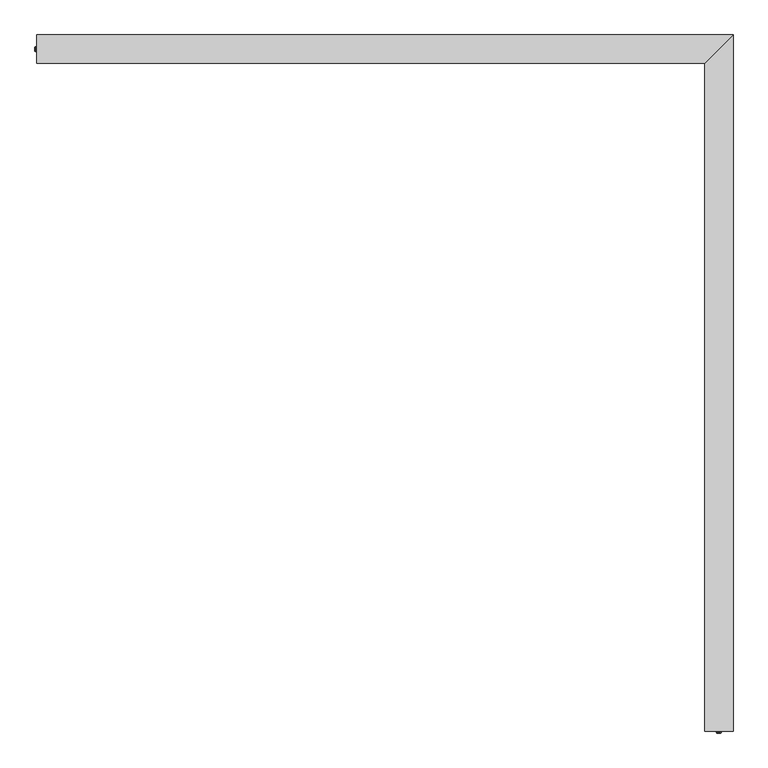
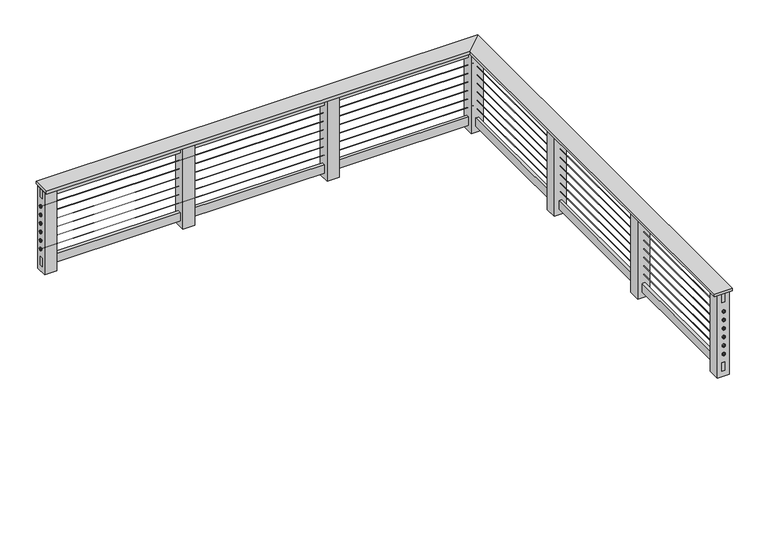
"""IFC4 building model written with IfcOpenShell, lengths in millimetres: railing geometry, HandiSwage Cable Railing System Flat."""

from ifc_helpers import new_model, si_unit, point, frame, origin, origin_with_axes, place, context, project, spatial, polyline, circle_curve, ellipse_curve, trimmed, outline, extrude, faceted_brep, source, transform, mapped, element, save
from ifc_brep_helpers import plane_surface, cylinder_surface, revolved_surface, advanced_brep


def railing_3a9d6573(model_context):
    return source(origin(), model_context, "Body", "SolidModel", [
        faceted_brep([(-13704.6998867, 618.9400917, 762.0), (-13704.6998867, 771.3400917, 762.0), (-13704.6998867, 771.3400917, 736.6), (-13704.6998867, 618.9400917, 736.6), (-10123.2998867, 618.9400917, 762.0), (-9970.8998867, 771.3400917, 762.0), (-9970.8998867, 771.3400917, 736.6), (-10123.2998867, 618.9400917, 736.6), (-10123.2998867, -2962.4599083, 762.0), (-10123.2998867, -2962.4599083, 736.6), (-9970.8998867, -2962.4599083, 736.6), (-9970.8998867, -2962.4599083, 762.0)], [[[0, 1, 2, 3]], [[1, 0, 4, 5]], [[2, 1, 5, 6]], [[3, 2, 6, 7]], [[0, 3, 7, 4]], [[8, 9, 10, 11]], [[5, 4, 8, 11]], [[6, 5, 11, 10]], [[7, 6, 10, 9]], [[4, 7, 9, 8]]]),
        faceted_brep([(-13704.6998867, 682.4400917, 736.6), (-13704.6998867, 707.8400917, 736.6), (-13704.6998867, 707.8400917, 660.4), (-13704.6998867, 682.4400917, 660.4), (-10059.7998867, 682.4400917, 736.6), (-10034.3998867, 707.8400917, 736.6), (-10034.3998867, 707.8400917, 660.4), (-10059.7998867, 682.4400917, 660.4), (-10059.7998867, -2962.4599083, 736.6), (-10059.7998867, -2962.4599083, 660.4), (-10034.3998867, -2962.4599083, 660.4), (-10034.3998867, -2962.4599083, 736.6)], [[[0, 1, 2, 3]], [[1, 0, 4, 5]], [[2, 1, 5, 6]], [[3, 2, 6, 7]], [[0, 3, 7, 4]], [[8, 9, 10, 11]], [[5, 4, 8, 11]], [[6, 5, 11, 10]], [[7, 6, 10, 9]], [[4, 7, 9, 8]]]),
        advanced_brep(
        [(-13704.6998867, 696.6780114, 584.2), (-13704.6998867, 693.6021719, 584.2), (-10045.561967, 696.6780114, 584.2), (-10048.6378065, 693.6021719, 584.2), (-10045.561967, -2962.4599083, 584.2), (-10048.6378065, -2962.4599083, 584.2)],
        [
            (0, 1, circle_curve(frame((-13704.6998867, 695.1400917, 584.2), z_axis=(-1.0, 0.0, 0.0), x_axis=(0.0, -1.0, 0.0)), 1.5379197)),
            (1, 0, circle_curve(frame((-13704.6998867, 695.1400917, 584.2), z_axis=(-1.0, 0.0, 0.0), x_axis=(0.0, -1.0, 0.0)), 1.5379197)),
            (0, 2),
            (2, 3, ellipse_curve(frame((-10047.0998867, 695.1400917, 584.2), z_axis=(-0.7071067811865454, 0.7071067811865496, 0.0), x_axis=(-0.7071067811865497, -0.7071067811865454, 0.0)), 2.174947, 1.5379197)),
            (3, 1),
            (3, 2, ellipse_curve(frame((-10047.0998867, 695.1400917, 584.2), z_axis=(-0.7071067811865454, 0.7071067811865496, 0.0), x_axis=(-0.7071067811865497, -0.7071067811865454, 0.0)), 2.174947, 1.5379197)),
            (4, 5, circle_curve(frame((-10047.0998867, -2962.4599083, 584.2), z_axis=(0.0, -1.0, 0.0), x_axis=(-1.0, 0.0, 0.0)), 1.5379197)),
            (5, 4, circle_curve(frame((-10047.0998867, -2962.4599083, 584.2), z_axis=(0.0, -1.0, 0.0), x_axis=(-1.0, 0.0, 0.0)), 1.5379197)),
            (2, 4),
            (5, 3),
        ],
        [
            plane_surface(frame((-13704.6998867, 695.1400917, 584.2), z_axis=(-1.0, 0.0, 0.0), x_axis=(0.0, 1.0, 0.0))),
            cylinder_surface(frame((-13704.6998867, 695.1400917, 584.2), z_axis=(-1.0, 0.0, 0.0), x_axis=(0.0, -1.0, 0.0)), 1.5379197),
            plane_surface(frame((-10047.0998867, -2962.4599083, 584.2), z_axis=(0.0, -1.0, 0.0), x_axis=(0.0, 0.0, -1.0))),
            cylinder_surface(frame((-10047.0998867, 695.1400917, 584.2), z_axis=(0.0, 1.0, 0.0), x_axis=(-1.0, 0.0, 0.0)), 1.5379197),
        ],
        [
            (0, [[1, 2]]),
            (1, [[-1, 3, 4, 5]]),
            (1, [[-2, -5, 6, -3]]),
            (2, [[7, 8]]),
            (3, [[-4, 9, -8, 10]]),
            (3, [[-6, -10, -7, -9]]),
        ],
    ),
        advanced_brep(
        [(-13704.6998867, 696.6780114, 508.0), (-13704.6998867, 693.6021719, 508.0), (-10045.561967, 696.6780114, 508.0), (-10048.6378065, 693.6021719, 508.0), (-10045.561967, -2962.4599083, 508.0), (-10048.6378065, -2962.4599083, 508.0)],
        [
            (0, 1, circle_curve(frame((-13704.6998867, 695.1400917, 508.0), z_axis=(-1.0, 0.0, 0.0), x_axis=(0.0, -1.0, 0.0)), 1.5379197)),
            (1, 0, circle_curve(frame((-13704.6998867, 695.1400917, 508.0), z_axis=(-1.0, 0.0, 0.0), x_axis=(0.0, -1.0, 0.0)), 1.5379197)),
            (0, 2),
            (2, 3, ellipse_curve(frame((-10047.0998867, 695.1400917, 508.0), z_axis=(-0.7071067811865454, 0.7071067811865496, 0.0), x_axis=(-0.7071067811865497, -0.7071067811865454, 0.0)), 2.174947, 1.5379197)),
            (3, 1),
            (3, 2, ellipse_curve(frame((-10047.0998867, 695.1400917, 508.0), z_axis=(-0.7071067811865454, 0.7071067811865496, 0.0), x_axis=(-0.7071067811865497, -0.7071067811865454, 0.0)), 2.174947, 1.5379197)),
            (4, 5, circle_curve(frame((-10047.0998867, -2962.4599083, 508.0), z_axis=(0.0, -1.0, 0.0), x_axis=(-1.0, 0.0, 0.0)), 1.5379197)),
            (5, 4, circle_curve(frame((-10047.0998867, -2962.4599083, 508.0), z_axis=(0.0, -1.0, 0.0), x_axis=(-1.0, 0.0, 0.0)), 1.5379197)),
            (2, 4),
            (5, 3),
        ],
        [
            plane_surface(frame((-13704.6998867, 695.1400917, 508.0), z_axis=(-1.0, 0.0, 0.0), x_axis=(0.0, 1.0, 0.0))),
            cylinder_surface(frame((-13704.6998867, 695.1400917, 508.0), z_axis=(-1.0, 0.0, 0.0), x_axis=(0.0, -1.0, 0.0)), 1.5379197),
            plane_surface(frame((-10047.0998867, -2962.4599083, 508.0), z_axis=(0.0, -1.0, 0.0), x_axis=(0.0, 0.0, -1.0))),
            cylinder_surface(frame((-10047.0998867, 695.1400917, 508.0), z_axis=(0.0, 1.0, 0.0), x_axis=(-1.0, 0.0, 0.0)), 1.5379197),
        ],
        [
            (0, [[1, 2]]),
            (1, [[-1, 3, 4, 5]]),
            (1, [[-2, -5, 6, -3]]),
            (2, [[7, 8]]),
            (3, [[-4, 9, -8, 10]]),
            (3, [[-6, -10, -7, -9]]),
        ],
    ),
        advanced_brep(
        [(-13704.6998867, 696.6780114, 431.8), (-13704.6998867, 693.6021719, 431.8), (-10045.561967, 696.6780114, 431.8), (-10048.6378065, 693.6021719, 431.8), (-10045.561967, -2962.4599083, 431.8), (-10048.6378065, -2962.4599083, 431.8)],
        [
            (0, 1, circle_curve(frame((-13704.6998867, 695.1400917, 431.8), z_axis=(-1.0, 0.0, 0.0), x_axis=(0.0, -1.0, 0.0)), 1.5379197)),
            (1, 0, circle_curve(frame((-13704.6998867, 695.1400917, 431.8), z_axis=(-1.0, 0.0, 0.0), x_axis=(0.0, -1.0, 0.0)), 1.5379197)),
            (0, 2),
            (2, 3, ellipse_curve(frame((-10047.0998867, 695.1400917, 431.8), z_axis=(-0.7071067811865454, 0.7071067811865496, 0.0), x_axis=(-0.7071067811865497, -0.7071067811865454, 0.0)), 2.174947, 1.5379197)),
            (3, 1),
            (3, 2, ellipse_curve(frame((-10047.0998867, 695.1400917, 431.8), z_axis=(-0.7071067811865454, 0.7071067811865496, 0.0), x_axis=(-0.7071067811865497, -0.7071067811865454, 0.0)), 2.174947, 1.5379197)),
            (4, 5, circle_curve(frame((-10047.0998867, -2962.4599083, 431.8), z_axis=(0.0, -1.0, 0.0), x_axis=(-1.0, 0.0, 0.0)), 1.5379197)),
            (5, 4, circle_curve(frame((-10047.0998867, -2962.4599083, 431.8), z_axis=(0.0, -1.0, 0.0), x_axis=(-1.0, 0.0, 0.0)), 1.5379197)),
            (2, 4),
            (5, 3),
        ],
        [
            plane_surface(frame((-13704.6998867, 695.1400917, 431.8), z_axis=(-1.0, 0.0, 0.0), x_axis=(0.0, 1.0, 0.0))),
            cylinder_surface(frame((-13704.6998867, 695.1400917, 431.8), z_axis=(-1.0, 0.0, 0.0), x_axis=(0.0, -1.0, 0.0)), 1.5379197),
            plane_surface(frame((-10047.0998867, -2962.4599083, 431.8), z_axis=(0.0, -1.0, 0.0), x_axis=(0.0, 0.0, -1.0))),
            cylinder_surface(frame((-10047.0998867, 695.1400917, 431.8), z_axis=(0.0, 1.0, 0.0), x_axis=(-1.0, 0.0, 0.0)), 1.5379197),
        ],
        [
            (0, [[1, 2]]),
            (1, [[-1, 3, 4, 5]]),
            (1, [[-2, -5, 6, -3]]),
            (2, [[7, 8]]),
            (3, [[-4, 9, -8, 10]]),
            (3, [[-6, -10, -7, -9]]),
        ],
    ),
        advanced_brep(
        [(-13704.6998867, 696.6780114, 355.6), (-13704.6998867, 693.6021719, 355.6), (-10045.561967, 696.6780114, 355.6), (-10048.6378065, 693.6021719, 355.6), (-10045.561967, -2962.4599083, 355.6), (-10048.6378065, -2962.4599083, 355.6)],
        [
            (0, 1, circle_curve(frame((-13704.6998867, 695.1400917, 355.6), z_axis=(-1.0, 0.0, 0.0), x_axis=(0.0, -1.0, 0.0)), 1.5379197)),
            (1, 0, circle_curve(frame((-13704.6998867, 695.1400917, 355.6), z_axis=(-1.0, 0.0, 0.0), x_axis=(0.0, -1.0, 0.0)), 1.5379197)),
            (0, 2),
            (2, 3, ellipse_curve(frame((-10047.0998867, 695.1400917, 355.6), z_axis=(-0.7071067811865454, 0.7071067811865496, 0.0), x_axis=(-0.7071067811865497, -0.7071067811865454, 0.0)), 2.174947, 1.5379197)),
            (3, 1),
            (3, 2, ellipse_curve(frame((-10047.0998867, 695.1400917, 355.6), z_axis=(-0.7071067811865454, 0.7071067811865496, 0.0), x_axis=(-0.7071067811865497, -0.7071067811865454, 0.0)), 2.174947, 1.5379197)),
            (4, 5, circle_curve(frame((-10047.0998867, -2962.4599083, 355.6), z_axis=(0.0, -1.0, 0.0), x_axis=(-1.0, 0.0, 0.0)), 1.5379197)),
            (5, 4, circle_curve(frame((-10047.0998867, -2962.4599083, 355.6), z_axis=(0.0, -1.0, 0.0), x_axis=(-1.0, 0.0, 0.0)), 1.5379197)),
            (2, 4),
            (5, 3),
        ],
        [
            plane_surface(frame((-13704.6998867, 695.1400917, 355.6), z_axis=(-1.0, 0.0, 0.0), x_axis=(0.0, 1.0, 0.0))),
            cylinder_surface(frame((-13704.6998867, 695.1400917, 355.6), z_axis=(-1.0, 0.0, 0.0), x_axis=(0.0, -1.0, 0.0)), 1.5379197),
            plane_surface(frame((-10047.0998867, -2962.4599083, 355.6), z_axis=(0.0, -1.0, 0.0), x_axis=(0.0, 0.0, -1.0))),
            cylinder_surface(frame((-10047.0998867, 695.1400917, 355.6), z_axis=(0.0, 1.0, 0.0), x_axis=(-1.0, 0.0, 0.0)), 1.5379197),
        ],
        [
            (0, [[1, 2]]),
            (1, [[-1, 3, 4, 5]]),
            (1, [[-2, -5, 6, -3]]),
            (2, [[7, 8]]),
            (3, [[-4, 9, -8, 10]]),
            (3, [[-6, -10, -7, -9]]),
        ],
    ),
        advanced_brep(
        [(-13704.6998867, 696.6780114, 279.4), (-13704.6998867, 693.6021719, 279.4), (-10045.561967, 696.6780114, 279.4), (-10048.6378065, 693.6021719, 279.4), (-10045.561967, -2962.4599083, 279.4), (-10048.6378065, -2962.4599083, 279.4)],
        [
            (0, 1, circle_curve(frame((-13704.6998867, 695.1400917, 279.4), z_axis=(-1.0, 0.0, 0.0), x_axis=(0.0, -1.0, 0.0)), 1.5379197)),
            (1, 0, circle_curve(frame((-13704.6998867, 695.1400917, 279.4), z_axis=(-1.0, 0.0, 0.0), x_axis=(0.0, -1.0, 0.0)), 1.5379197)),
            (0, 2),
            (2, 3, ellipse_curve(frame((-10047.0998867, 695.1400917, 279.4), z_axis=(-0.7071067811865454, 0.7071067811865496, 0.0), x_axis=(-0.7071067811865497, -0.7071067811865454, 0.0)), 2.174947, 1.5379197)),
            (3, 1),
            (3, 2, ellipse_curve(frame((-10047.0998867, 695.1400917, 279.4), z_axis=(-0.7071067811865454, 0.7071067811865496, 0.0), x_axis=(-0.7071067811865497, -0.7071067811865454, 0.0)), 2.174947, 1.5379197)),
            (4, 5, circle_curve(frame((-10047.0998867, -2962.4599083, 279.4), z_axis=(0.0, -1.0, 0.0), x_axis=(-1.0, 0.0, 0.0)), 1.5379197)),
            (5, 4, circle_curve(frame((-10047.0998867, -2962.4599083, 279.4), z_axis=(0.0, -1.0, 0.0), x_axis=(-1.0, 0.0, 0.0)), 1.5379197)),
            (2, 4),
            (5, 3),
        ],
        [
            plane_surface(frame((-13704.6998867, 695.1400917, 279.4), z_axis=(-1.0, 0.0, 0.0), x_axis=(0.0, 1.0, 0.0))),
            cylinder_surface(frame((-13704.6998867, 695.1400917, 279.4), z_axis=(-1.0, 0.0, 0.0), x_axis=(0.0, -1.0, 0.0)), 1.5379197),
            plane_surface(frame((-10047.0998867, -2962.4599083, 279.4), z_axis=(0.0, -1.0, 0.0), x_axis=(0.0, 0.0, -1.0))),
            cylinder_surface(frame((-10047.0998867, 695.1400917, 279.4), z_axis=(0.0, 1.0, 0.0), x_axis=(-1.0, 0.0, 0.0)), 1.5379197),
        ],
        [
            (0, [[1, 2]]),
            (1, [[-1, 3, 4, 5]]),
            (1, [[-2, -5, 6, -3]]),
            (2, [[7, 8]]),
            (3, [[-4, 9, -8, 10]]),
            (3, [[-6, -10, -7, -9]]),
        ],
    ),
        advanced_brep(
        [(-13704.6998867, 696.6780114, 203.2), (-13704.6998867, 693.6021719, 203.2), (-10045.561967, 696.6780114, 203.2), (-10048.6378065, 693.6021719, 203.2), (-10045.561967, -2962.4599083, 203.2), (-10048.6378065, -2962.4599083, 203.2)],
        [
            (0, 1, circle_curve(frame((-13704.6998867, 695.1400917, 203.2), z_axis=(-1.0, 0.0, 0.0), x_axis=(0.0, -1.0, 0.0)), 1.5379197)),
            (1, 0, circle_curve(frame((-13704.6998867, 695.1400917, 203.2), z_axis=(-1.0, 0.0, 0.0), x_axis=(0.0, -1.0, 0.0)), 1.5379197)),
            (0, 2),
            (2, 3, ellipse_curve(frame((-10047.0998867, 695.1400917, 203.2), z_axis=(-0.7071067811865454, 0.7071067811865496, 0.0), x_axis=(-0.7071067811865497, -0.7071067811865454, 0.0)), 2.174947, 1.5379197)),
            (3, 1),
            (3, 2, ellipse_curve(frame((-10047.0998867, 695.1400917, 203.2), z_axis=(-0.7071067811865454, 0.7071067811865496, 0.0), x_axis=(-0.7071067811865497, -0.7071067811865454, 0.0)), 2.174947, 1.5379197)),
            (4, 5, circle_curve(frame((-10047.0998867, -2962.4599083, 203.2), z_axis=(0.0, -1.0, 0.0), x_axis=(-1.0, 0.0, 0.0)), 1.5379197)),
            (5, 4, circle_curve(frame((-10047.0998867, -2962.4599083, 203.2), z_axis=(0.0, -1.0, 0.0), x_axis=(-1.0, 0.0, 0.0)), 1.5379197)),
            (2, 4),
            (5, 3),
        ],
        [
            plane_surface(frame((-13704.6998867, 695.1400917, 203.2), z_axis=(-1.0, 0.0, 0.0), x_axis=(0.0, 1.0, 0.0))),
            cylinder_surface(frame((-13704.6998867, 695.1400917, 203.2), z_axis=(-1.0, 0.0, 0.0), x_axis=(0.0, -1.0, 0.0)), 1.5379197),
            plane_surface(frame((-10047.0998867, -2962.4599083, 203.2), z_axis=(0.0, -1.0, 0.0), x_axis=(0.0, 0.0, -1.0))),
            cylinder_surface(frame((-10047.0998867, 695.1400917, 203.2), z_axis=(0.0, 1.0, 0.0), x_axis=(-1.0, 0.0, 0.0)), 1.5379197),
        ],
        [
            (0, [[1, 2]]),
            (1, [[-1, 3, 4, 5]]),
            (1, [[-2, -5, 6, -3]]),
            (2, [[7, 8]]),
            (3, [[-4, 9, -8, 10]]),
            (3, [[-6, -10, -7, -9]]),
        ],
    ),
        faceted_brep([(-13704.6998867, 682.4400917, 127.0), (-13704.6998867, 707.8400917, 127.0), (-13704.6998867, 707.8400917, 50.8), (-13704.6998867, 682.4400917, 50.8), (-10059.7998867, 682.4400917, 127.0), (-10034.3998867, 707.8400917, 127.0), (-10034.3998867, 707.8400917, 50.8), (-10059.7998867, 682.4400917, 50.8), (-10059.7998867, -2962.4599083, 127.0), (-10059.7998867, -2962.4599083, 50.8), (-10034.3998867, -2962.4599083, 50.8), (-10034.3998867, -2962.4599083, 127.0)], [[[0, 1, 2, 3]], [[1, 0, 4, 5]], [[2, 1, 5, 6]], [[3, 2, 6, 7]], [[0, 3, 7, 4]], [[8, 9, 10, 11]], [[5, 4, 8, 11]], [[6, 5, 11, 10]], [[7, 6, 10, 9]], [[4, 7, 9, 8]]]),
        extrude(outline(polyline([(-10097.8998867, -1692.4599083), (-9996.2998867, -1692.4599083), (-9996.2998867, -1794.0599083), (-10097.8998867, -1794.0599083), (-10097.8998867, -1692.4599083)])), origin_with_axes(), (0.0, 0.0, 1.0), 736.6),
        extrude(outline(polyline([(-10097.8998867, -473.2599083), (-9996.2998867, -473.2599083), (-9996.2998867, -574.8599083), (-10097.8998867, -574.8599083), (-10097.8998867, -473.2599083)])), origin_with_axes(), (0.0, 0.0, 1.0), 736.6),
        extrude(outline(polyline([(-10097.8998867, 745.9400917), (-9996.2998867, 745.9400917), (-9996.2998867, 644.3400917), (-10097.8998867, 644.3400917), (-10097.8998867, 745.9400917)])), origin_with_axes(), (0.0, 0.0, 1.0), 736.6),
        extrude(outline(polyline([(-10097.8998867, 644.3400917), (-10097.8998867, 745.9400917), (-9996.2998867, 745.9400917), (-9996.2998867, 644.3400917), (-10097.8998867, 644.3400917)])), origin_with_axes(), (0.0, 0.0, 1.0), 736.6),
        extrude(outline(polyline([(-11317.0998867, 644.3400917), (-11317.0998867, 745.9400917), (-11215.4998867, 745.9400917), (-11215.4998867, 644.3400917), (-11317.0998867, 644.3400917)])), origin_with_axes(), (0.0, 0.0, 1.0), 736.6),
        extrude(outline(polyline([(-12536.2998867, 644.3400917), (-12536.2998867, 745.9400917), (-12434.6998867, 745.9400917), (-12434.6998867, 644.3400917), (-12536.2998867, 644.3400917)])), origin_with_axes(), (0.0, 0.0, 1.0), 736.6),
        advanced_brep(
        [(-10047.0998867, -2962.4599083, 279.0980455), (-10047.0998867, -2962.4599083, 266.3980455), (-10047.0998867, -2962.4599083, 291.7980455), (-10047.0998867, -2971.9849083, 269.5730455), (-10047.0998867, -2971.9849083, 279.0980455), (-10047.0998867, -2971.9849083, 288.6230455), (-10047.0998867, -2968.8099083, 266.3980455), (-10047.0998867, -2968.8099083, 291.7980455)],
        [
            (0, 1),
            (1, 2, circle_curve(frame((-10047.0998867, -2962.4599083, 279.0980455), z_axis=(0.0, 1.0, 0.0), x_axis=(0.0, 0.0, 1.0)), 12.7)),
            (2, 0),
            (2, 1, circle_curve(frame((-10047.0998867, -2962.4599083, 279.0980455), z_axis=(0.0, 1.0, 0.0), x_axis=(0.0, 0.0, 1.0)), 12.7)),
            (3, 4),
            (4, 5),
            (5, 3, circle_curve(frame((-10047.0998867, -2971.9849083, 279.0980455), z_axis=(0.0, -1.0, 0.0), x_axis=(0.0, 0.0, 1.0)), 9.525)),
            (3, 5, circle_curve(frame((-10047.0998867, -2971.9849083, 279.0980455), z_axis=(0.0, -1.0, 0.0), x_axis=(0.0, 0.0, 1.0)), 9.525)),
            (1, 6),
            (6, 7, circle_curve(frame((-10047.0998867, -2968.8099083, 279.0980455), z_axis=(0.0, 1.0, 0.0), x_axis=(0.0, 0.0, 1.0)), 12.7)),
            (7, 2),
            (7, 6, circle_curve(frame((-10047.0998867, -2968.8099083, 279.0980455), z_axis=(0.0, 1.0, 0.0), x_axis=(0.0, 0.0, 1.0)), 12.7)),
            (6, 3, circle_curve(frame((-10047.0998867, -2968.8099083, 269.5730455), z_axis=(-1.0, 0.0, 0.0), x_axis=(0.0, -1.0, 0.0)), 3.175)),
            (5, 7, circle_curve(frame((-10047.0998867, -2968.8099083, 288.6230455), z_axis=(-1.0, 0.0, 0.0), x_axis=(0.0, -1.0, 0.0)), 3.175)),
        ],
        [
            plane_surface(frame((-10047.0998867, -2962.4599083, 279.0980455), z_axis=(0.0, 1.0, 0.0), x_axis=(0.0, 0.0, 1.0))),
            plane_surface(frame((-10047.0998867, -2971.9849083, 279.0980455), z_axis=(0.0, -1.0, 0.0), x_axis=(0.0, 0.0, 1.0))),
            cylinder_surface(frame((-10047.0998867, -2962.4599083, 279.0980455), z_axis=(0.0, 1.0, 0.0), x_axis=(0.0, 0.0, 1.0)), 12.7),
            revolved_surface(trimmed(ellipse_curve(frame((-10047.0998867, -2968.8099083, 288.6230455), z_axis=(-1.0, 0.0, 0.0), x_axis=(0.0, -1.0, 0.0)), 3.175, 3.175), [point((-10047.0998867, -2971.9849083, 288.6230455))], [point((-10047.0998867, -2968.8099083, 291.7980455))], True, "CARTESIAN"), (-10047.0998867, -2962.4599083, 279.0980455), (0.0, 1.0, 0.0)),
        ],
        [
            (0, [[1, 2, 3]]),
            (0, [[-3, 4, -1]]),
            (1, [[5, 6, 7]]),
            (1, [[-6, -5, 8]]),
            (2, [[9, 10, 11, -2]]),
            (2, [[-11, 12, -9, -4]]),
            (3, [[13, -7, 14, -10]]),
            (3, [[-14, -8, -13, -12]]),
        ],
    ),
        advanced_brep(
        [(-10047.0998867, -2962.4599083, 355.2980455), (-10047.0998867, -2962.4599083, 342.5980455), (-10047.0998867, -2962.4599083, 367.9980455), (-10047.0998867, -2971.9849083, 345.7730455), (-10047.0998867, -2971.9849083, 355.2980455), (-10047.0998867, -2971.9849083, 364.8230455), (-10047.0998867, -2968.8099083, 342.5980455), (-10047.0998867, -2968.8099083, 367.9980455)],
        [
            (0, 1),
            (1, 2, circle_curve(frame((-10047.0998867, -2962.4599083, 355.2980455), z_axis=(0.0, 1.0, 0.0), x_axis=(0.0, 0.0, 1.0)), 12.7)),
            (2, 0),
            (2, 1, circle_curve(frame((-10047.0998867, -2962.4599083, 355.2980455), z_axis=(0.0, 1.0, 0.0), x_axis=(0.0, 0.0, 1.0)), 12.7)),
            (3, 4),
            (4, 5),
            (5, 3, circle_curve(frame((-10047.0998867, -2971.9849083, 355.2980455), z_axis=(0.0, -1.0, 0.0), x_axis=(0.0, 0.0, 1.0)), 9.525)),
            (3, 5, circle_curve(frame((-10047.0998867, -2971.9849083, 355.2980455), z_axis=(0.0, -1.0, 0.0), x_axis=(0.0, 0.0, 1.0)), 9.525)),
            (1, 6),
            (6, 7, circle_curve(frame((-10047.0998867, -2968.8099083, 355.2980455), z_axis=(0.0, 1.0, 0.0), x_axis=(0.0, 0.0, 1.0)), 12.7)),
            (7, 2),
            (7, 6, circle_curve(frame((-10047.0998867, -2968.8099083, 355.2980455), z_axis=(0.0, 1.0, 0.0), x_axis=(0.0, 0.0, 1.0)), 12.7)),
            (6, 3, circle_curve(frame((-10047.0998867, -2968.8099083, 345.7730455), z_axis=(-1.0, 0.0, 0.0), x_axis=(0.0, -1.0, 0.0)), 3.175)),
            (5, 7, circle_curve(frame((-10047.0998867, -2968.8099083, 364.8230455), z_axis=(-1.0, 0.0, 0.0), x_axis=(0.0, -1.0, 0.0)), 3.175)),
        ],
        [
            plane_surface(frame((-10047.0998867, -2962.4599083, 355.2980455), z_axis=(0.0, 1.0, 0.0), x_axis=(0.0, 0.0, 1.0))),
            plane_surface(frame((-10047.0998867, -2971.9849083, 355.2980455), z_axis=(0.0, -1.0, 0.0), x_axis=(0.0, 0.0, 1.0))),
            cylinder_surface(frame((-10047.0998867, -2962.4599083, 355.2980455), z_axis=(0.0, 1.0, 0.0), x_axis=(0.0, 0.0, 1.0)), 12.7),
            revolved_surface(trimmed(ellipse_curve(frame((-10047.0998867, -2968.8099083, 364.8230455), z_axis=(-1.0, 0.0, 0.0), x_axis=(0.0, -1.0, 0.0)), 3.175, 3.175), [point((-10047.0998867, -2971.9849083, 364.8230455))], [point((-10047.0998867, -2968.8099083, 367.9980455))], True, "CARTESIAN"), (-10047.0998867, -2962.4599083, 355.2980455), (0.0, 1.0, 0.0)),
        ],
        [
            (0, [[1, 2, 3]]),
            (0, [[-3, 4, -1]]),
            (1, [[5, 6, 7]]),
            (1, [[-6, -5, 8]]),
            (2, [[9, 10, 11, -2]]),
            (2, [[-11, 12, -9, -4]]),
            (3, [[13, -7, 14, -10]]),
            (3, [[-14, -8, -13, -12]]),
        ],
    ),
        advanced_brep(
        [(-10047.0998867, -2962.4599083, 431.4980455), (-10047.0998867, -2962.4599083, 418.7980455), (-10047.0998867, -2962.4599083, 444.1980455), (-10047.0998867, -2971.9849083, 421.9730455), (-10047.0998867, -2971.9849083, 431.4980455), (-10047.0998867, -2971.9849083, 441.0230455), (-10047.0998867, -2968.8099083, 418.7980455), (-10047.0998867, -2968.8099083, 444.1980455)],
        [
            (0, 1),
            (1, 2, circle_curve(frame((-10047.0998867, -2962.4599083, 431.4980455), z_axis=(0.0, 1.0, 0.0), x_axis=(0.0, 0.0, 1.0)), 12.7)),
            (2, 0),
            (2, 1, circle_curve(frame((-10047.0998867, -2962.4599083, 431.4980455), z_axis=(0.0, 1.0, 0.0), x_axis=(0.0, 0.0, 1.0)), 12.7)),
            (3, 4),
            (4, 5),
            (5, 3, circle_curve(frame((-10047.0998867, -2971.9849083, 431.4980455), z_axis=(0.0, -1.0, 0.0), x_axis=(0.0, 0.0, 1.0)), 9.525)),
            (3, 5, circle_curve(frame((-10047.0998867, -2971.9849083, 431.4980455), z_axis=(0.0, -1.0, 0.0), x_axis=(0.0, 0.0, 1.0)), 9.525)),
            (1, 6),
            (6, 7, circle_curve(frame((-10047.0998867, -2968.8099083, 431.4980455), z_axis=(0.0, 1.0, 0.0), x_axis=(0.0, 0.0, 1.0)), 12.7)),
            (7, 2),
            (7, 6, circle_curve(frame((-10047.0998867, -2968.8099083, 431.4980455), z_axis=(0.0, 1.0, 0.0), x_axis=(0.0, 0.0, 1.0)), 12.7)),
            (6, 3, circle_curve(frame((-10047.0998867, -2968.8099083, 421.9730455), z_axis=(-1.0, 0.0, 0.0), x_axis=(0.0, -1.0, 0.0)), 3.175)),
            (5, 7, circle_curve(frame((-10047.0998867, -2968.8099083, 441.0230455), z_axis=(-1.0, 0.0, 0.0), x_axis=(0.0, -1.0, 0.0)), 3.175)),
        ],
        [
            plane_surface(frame((-10047.0998867, -2962.4599083, 431.4980455), z_axis=(0.0, 1.0, 0.0), x_axis=(0.0, 0.0, 1.0))),
            plane_surface(frame((-10047.0998867, -2971.9849083, 431.4980455), z_axis=(0.0, -1.0, 0.0), x_axis=(0.0, 0.0, 1.0))),
            cylinder_surface(frame((-10047.0998867, -2962.4599083, 431.4980455), z_axis=(0.0, 1.0, 0.0), x_axis=(0.0, 0.0, 1.0)), 12.7),
            revolved_surface(trimmed(ellipse_curve(frame((-10047.0998867, -2968.8099083, 441.0230455), z_axis=(-1.0, 0.0, 0.0), x_axis=(0.0, -1.0, 0.0)), 3.175, 3.175), [point((-10047.0998867, -2971.9849083, 441.0230455))], [point((-10047.0998867, -2968.8099083, 444.1980455))], True, "CARTESIAN"), (-10047.0998867, -2962.4599083, 431.4980455), (0.0, 1.0, 0.0)),
        ],
        [
            (0, [[1, 2, 3]]),
            (0, [[-3, 4, -1]]),
            (1, [[5, 6, 7]]),
            (1, [[-6, -5, 8]]),
            (2, [[9, 10, 11, -2]]),
            (2, [[-11, 12, -9, -4]]),
            (3, [[13, -7, 14, -10]]),
            (3, [[-14, -8, -13, -12]]),
        ],
    ),
        advanced_brep(
        [(-10047.0998867, -2962.4599083, 507.6980455), (-10047.0998867, -2962.4599083, 494.9980455), (-10047.0998867, -2962.4599083, 520.3980455), (-10047.0998867, -2971.9849083, 498.1730455), (-10047.0998867, -2971.9849083, 507.6980455), (-10047.0998867, -2971.9849083, 517.2230455), (-10047.0998867, -2968.8099083, 494.9980455), (-10047.0998867, -2968.8099083, 520.3980455)],
        [
            (0, 1),
            (1, 2, circle_curve(frame((-10047.0998867, -2962.4599083, 507.6980455), z_axis=(0.0, 1.0, 0.0), x_axis=(0.0, 0.0, 1.0)), 12.7)),
            (2, 0),
            (2, 1, circle_curve(frame((-10047.0998867, -2962.4599083, 507.6980455), z_axis=(0.0, 1.0, 0.0), x_axis=(0.0, 0.0, 1.0)), 12.7)),
            (3, 4),
            (4, 5),
            (5, 3, circle_curve(frame((-10047.0998867, -2971.9849083, 507.6980455), z_axis=(0.0, -1.0, 0.0), x_axis=(0.0, 0.0, 1.0)), 9.525)),
            (3, 5, circle_curve(frame((-10047.0998867, -2971.9849083, 507.6980455), z_axis=(0.0, -1.0, 0.0), x_axis=(0.0, 0.0, 1.0)), 9.525)),
            (1, 6),
            (6, 7, circle_curve(frame((-10047.0998867, -2968.8099083, 507.6980455), z_axis=(0.0, 1.0, 0.0), x_axis=(0.0, 0.0, 1.0)), 12.7)),
            (7, 2),
            (7, 6, circle_curve(frame((-10047.0998867, -2968.8099083, 507.6980455), z_axis=(0.0, 1.0, 0.0), x_axis=(0.0, 0.0, 1.0)), 12.7)),
            (6, 3, circle_curve(frame((-10047.0998867, -2968.8099083, 498.1730455), z_axis=(-1.0, 0.0, 0.0), x_axis=(0.0, -1.0, 0.0)), 3.175)),
            (5, 7, circle_curve(frame((-10047.0998867, -2968.8099083, 517.2230455), z_axis=(-1.0, 0.0, 0.0), x_axis=(0.0, -1.0, 0.0)), 3.175)),
        ],
        [
            plane_surface(frame((-10047.0998867, -2962.4599083, 507.6980455), z_axis=(0.0, 1.0, 0.0), x_axis=(0.0, 0.0, 1.0))),
            plane_surface(frame((-10047.0998867, -2971.9849083, 507.6980455), z_axis=(0.0, -1.0, 0.0), x_axis=(0.0, 0.0, 1.0))),
            cylinder_surface(frame((-10047.0998867, -2962.4599083, 507.6980455), z_axis=(0.0, 1.0, 0.0), x_axis=(0.0, 0.0, 1.0)), 12.7),
            revolved_surface(trimmed(ellipse_curve(frame((-10047.0998867, -2968.8099083, 517.2230455), z_axis=(-1.0, 0.0, 0.0), x_axis=(0.0, -1.0, 0.0)), 3.175, 3.175), [point((-10047.0998867, -2971.9849083, 517.2230455))], [point((-10047.0998867, -2968.8099083, 520.3980455))], True, "CARTESIAN"), (-10047.0998867, -2962.4599083, 507.6980455), (0.0, 1.0, 0.0)),
        ],
        [
            (0, [[1, 2, 3]]),
            (0, [[-3, 4, -1]]),
            (1, [[5, 6, 7]]),
            (1, [[-6, -5, 8]]),
            (2, [[9, 10, 11, -2]]),
            (2, [[-11, 12, -9, -4]]),
            (3, [[13, -7, 14, -10]]),
            (3, [[-14, -8, -13, -12]]),
        ],
    ),
        advanced_brep(
        [(-10047.0998867, -2962.4599083, 583.8980455), (-10047.0998867, -2962.4599083, 571.1980455), (-10047.0998867, -2962.4599083, 596.5980455), (-10047.0998867, -2971.9849083, 574.3730455), (-10047.0998867, -2971.9849083, 583.8980455), (-10047.0998867, -2971.9849083, 593.4230455), (-10047.0998867, -2968.8099083, 571.1980455), (-10047.0998867, -2968.8099083, 596.5980455)],
        [
            (0, 1),
            (1, 2, circle_curve(frame((-10047.0998867, -2962.4599083, 583.8980455), z_axis=(0.0, 1.0, 0.0), x_axis=(0.0, 0.0, 1.0)), 12.7)),
            (2, 0),
            (2, 1, circle_curve(frame((-10047.0998867, -2962.4599083, 583.8980455), z_axis=(0.0, 1.0, 0.0), x_axis=(0.0, 0.0, 1.0)), 12.7)),
            (3, 4),
            (4, 5),
            (5, 3, circle_curve(frame((-10047.0998867, -2971.9849083, 583.8980455), z_axis=(0.0, -1.0, 0.0), x_axis=(0.0, 0.0, 1.0)), 9.525)),
            (3, 5, circle_curve(frame((-10047.0998867, -2971.9849083, 583.8980455), z_axis=(0.0, -1.0, 0.0), x_axis=(0.0, 0.0, 1.0)), 9.525)),
            (1, 6),
            (6, 7, circle_curve(frame((-10047.0998867, -2968.8099083, 583.8980455), z_axis=(0.0, 1.0, 0.0), x_axis=(0.0, 0.0, 1.0)), 12.7)),
            (7, 2),
            (7, 6, circle_curve(frame((-10047.0998867, -2968.8099083, 583.8980455), z_axis=(0.0, 1.0, 0.0), x_axis=(0.0, 0.0, 1.0)), 12.7)),
            (6, 3, circle_curve(frame((-10047.0998867, -2968.8099083, 574.3730455), z_axis=(-1.0, 0.0, 0.0), x_axis=(0.0, -1.0, 0.0)), 3.175)),
            (5, 7, circle_curve(frame((-10047.0998867, -2968.8099083, 593.4230455), z_axis=(-1.0, 0.0, 0.0), x_axis=(0.0, -1.0, 0.0)), 3.175)),
        ],
        [
            plane_surface(frame((-10047.0998867, -2962.4599083, 583.8980455), z_axis=(0.0, 1.0, 0.0), x_axis=(0.0, 0.0, 1.0))),
            plane_surface(frame((-10047.0998867, -2971.9849083, 583.8980455), z_axis=(0.0, -1.0, 0.0), x_axis=(0.0, 0.0, 1.0))),
            cylinder_surface(frame((-10047.0998867, -2962.4599083, 583.8980455), z_axis=(0.0, 1.0, 0.0), x_axis=(0.0, 0.0, 1.0)), 12.7),
            revolved_surface(trimmed(ellipse_curve(frame((-10047.0998867, -2968.8099083, 593.4230455), z_axis=(-1.0, 0.0, 0.0), x_axis=(0.0, -1.0, 0.0)), 3.175, 3.175), [point((-10047.0998867, -2971.9849083, 593.4230455))], [point((-10047.0998867, -2968.8099083, 596.5980455))], True, "CARTESIAN"), (-10047.0998867, -2962.4599083, 583.8980455), (0.0, 1.0, 0.0)),
        ],
        [
            (0, [[1, 2, 3]]),
            (0, [[-3, 4, -1]]),
            (1, [[5, 6, 7]]),
            (1, [[-6, -5, 8]]),
            (2, [[9, 10, 11, -2]]),
            (2, [[-11, 12, -9, -4]]),
            (3, [[13, -7, 14, -10]]),
            (3, [[-14, -8, -13, -12]]),
        ],
    ),
        advanced_brep(
        [(-10047.0998867, -2962.4599083, 202.8980455), (-10047.0998867, -2962.4599083, 190.1980455), (-10047.0998867, -2962.4599083, 215.5980455), (-10047.0998867, -2971.9849083, 193.3730455), (-10047.0998867, -2971.9849083, 202.8980455), (-10047.0998867, -2971.9849083, 212.4230455), (-10047.0998867, -2968.8099083, 190.1980455), (-10047.0998867, -2968.8099083, 215.5980455)],
        [
            (0, 1),
            (1, 2, circle_curve(frame((-10047.0998867, -2962.4599083, 202.8980455), z_axis=(0.0, 1.0, 0.0), x_axis=(0.0, 0.0, 1.0)), 12.7)),
            (2, 0),
            (2, 1, circle_curve(frame((-10047.0998867, -2962.4599083, 202.8980455), z_axis=(0.0, 1.0, 0.0), x_axis=(0.0, 0.0, 1.0)), 12.7)),
            (3, 4),
            (4, 5),
            (5, 3, circle_curve(frame((-10047.0998867, -2971.9849083, 202.8980455), z_axis=(0.0, -1.0, 0.0), x_axis=(0.0, 0.0, 1.0)), 9.525)),
            (3, 5, circle_curve(frame((-10047.0998867, -2971.9849083, 202.8980455), z_axis=(0.0, -1.0, 0.0), x_axis=(0.0, 0.0, 1.0)), 9.525)),
            (1, 6),
            (6, 7, circle_curve(frame((-10047.0998867, -2968.8099083, 202.8980455), z_axis=(0.0, 1.0, 0.0), x_axis=(0.0, 0.0, 1.0)), 12.7)),
            (7, 2),
            (7, 6, circle_curve(frame((-10047.0998867, -2968.8099083, 202.8980455), z_axis=(0.0, 1.0, 0.0), x_axis=(0.0, 0.0, 1.0)), 12.7)),
            (6, 3, circle_curve(frame((-10047.0998867, -2968.8099083, 193.3730455), z_axis=(-1.0, 0.0, 0.0), x_axis=(0.0, -1.0, 0.0)), 3.175)),
            (5, 7, circle_curve(frame((-10047.0998867, -2968.8099083, 212.4230455), z_axis=(-1.0, 0.0, 0.0), x_axis=(0.0, -1.0, 0.0)), 3.175)),
        ],
        [
            plane_surface(frame((-10047.0998867, -2962.4599083, 202.8980455), z_axis=(0.0, 1.0, 0.0), x_axis=(0.0, 0.0, 1.0))),
            plane_surface(frame((-10047.0998867, -2971.9849083, 202.8980455), z_axis=(0.0, -1.0, 0.0), x_axis=(0.0, 0.0, 1.0))),
            cylinder_surface(frame((-10047.0998867, -2962.4599083, 202.8980455), z_axis=(0.0, 1.0, 0.0), x_axis=(0.0, 0.0, 1.0)), 12.7),
            revolved_surface(trimmed(ellipse_curve(frame((-10047.0998867, -2968.8099083, 212.4230455), z_axis=(-1.0, 0.0, 0.0), x_axis=(0.0, -1.0, 0.0)), 3.175, 3.175), [point((-10047.0998867, -2971.9849083, 212.4230455))], [point((-10047.0998867, -2968.8099083, 215.5980455))], True, "CARTESIAN"), (-10047.0998867, -2962.4599083, 202.8980455), (0.0, 1.0, 0.0)),
        ],
        [
            (0, [[1, 2, 3]]),
            (0, [[-3, 4, -1]]),
            (1, [[5, 6, 7]]),
            (1, [[-6, -5, 8]]),
            (2, [[9, 10, 11, -2]]),
            (2, [[-11, 12, -9, -4]]),
            (3, [[13, -7, 14, -10]]),
            (3, [[-14, -8, -13, -12]]),
        ],
    ),
        extrude(outline(polyline([(-10097.8998867, -2860.8599083), (-9996.2998867, -2860.8599083), (-9996.2998867, -2962.4599083), (-10097.8998867, -2962.4599083), (-10097.8998867, -2860.8599083)])), origin_with_axes(), (0.0, 0.0, 1.0), 736.6),
        advanced_brep(
        [(-13704.6998867, 695.1400917, 279.3957018), (-13704.6998867, 695.1400917, 292.0957018), (-13704.6998867, 695.1400917, 266.6957018), (-13714.2248867, 695.1400917, 269.9204941), (-13714.2248867, 695.1400917, 288.8709095), (-13714.2248867, 695.1400917, 279.3957018), (-13711.0498867, 695.1400917, 292.0957018), (-13711.0498867, 695.1400917, 266.6957018)],
        [
            (0, 1),
            (1, 2, circle_curve(frame((-13704.6998867, 695.1400917, 279.3957018), z_axis=(1.0, 0.0, 0.0), x_axis=(0.0, 0.0, 1.0)), 12.7)),
            (2, 0),
            (2, 1, circle_curve(frame((-13704.6998867, 695.1400917, 279.3957018), z_axis=(1.0, 0.0, 0.0), x_axis=(0.0, 0.0, 1.0)), 12.7)),
            (3, 4, circle_curve(frame((-13714.2248867, 695.1400917, 279.3957018), z_axis=(-1.0, 0.0, 0.0), x_axis=(0.0, 0.0, 1.0)), 9.4752077)),
            (4, 5),
            (5, 3),
            (4, 3, circle_curve(frame((-13714.2248867, 695.1400917, 279.3957018), z_axis=(-1.0, 0.0, 0.0), x_axis=(0.0, 0.0, 1.0)), 9.4752077)),
            (1, 6),
            (6, 7, circle_curve(frame((-13711.0498867, 695.1400917, 279.3957018), z_axis=(1.0, 0.0, 0.0), x_axis=(0.0, 0.0, 1.0)), 12.7)),
            (7, 2),
            (7, 6, circle_curve(frame((-13711.0498867, 695.1400917, 279.3957018), z_axis=(1.0, 0.0, 0.0), x_axis=(0.0, 0.0, 1.0)), 12.7)),
            (6, 4, circle_curve(frame((-13711.0498867, 695.1400917, 288.8709095), z_axis=(0.0, -1.0, 0.0), x_axis=(-1.0, 0.0, 0.0)), 3.175)),
            (3, 7, circle_curve(frame((-13711.0498867, 695.1400917, 269.9204941), z_axis=(0.0, -1.0, 0.0), x_axis=(-1.0, 0.0, 0.0)), 3.175)),
        ],
        [
            plane_surface(frame((-13704.6998867, 695.1400917, 279.3957018), z_axis=(1.0, 0.0, 0.0), x_axis=(0.0, 0.0, 1.0))),
            plane_surface(frame((-13714.2248867, 695.1400917, 279.3957018), z_axis=(-1.0, 0.0, 0.0), x_axis=(0.0, 0.0, 1.0))),
            cylinder_surface(frame((-13704.6998867, 695.1400917, 279.3957018), z_axis=(1.0, 0.0, 0.0), x_axis=(0.0, 0.0, 1.0)), 12.7),
            revolved_surface(trimmed(ellipse_curve(frame((-13711.0498867, 695.1400917, 288.8709095), z_axis=(0.0, 1.0, 0.0), x_axis=(-1.0, 0.0, 0.0)), 3.175, 3.175), [point((-13714.2248867, 695.1400917, 288.8709095))], [point((-13711.0498867, 695.1400917, 292.0459095))], True, "CARTESIAN"), (-13704.6998867, 695.1400917, 279.3957018), (1.0, 0.0, 0.0)),
        ],
        [
            (0, [[1, 2, 3]]),
            (0, [[-3, 4, -1]]),
            (1, [[5, 6, 7]]),
            (1, [[8, -7, -6]]),
            (2, [[-2, 9, 10, 11]]),
            (2, [[-4, -11, 12, -9]]),
            (3, [[-10, 13, -5, 14]]),
            (3, [[-12, -14, -8, -13]]),
        ],
    ),
        advanced_brep(
        [(-13704.6998867, 695.1400917, 355.5957018), (-13704.6998867, 695.1400917, 368.2957018), (-13704.6998867, 695.1400917, 342.8957018), (-13714.2248867, 695.1400917, 346.1204941), (-13714.2248867, 695.1400917, 365.0709095), (-13714.2248867, 695.1400917, 355.5957018), (-13711.0498867, 695.1400917, 368.2957018), (-13711.0498867, 695.1400917, 342.8957018)],
        [
            (0, 1),
            (1, 2, circle_curve(frame((-13704.6998867, 695.1400917, 355.5957018), z_axis=(1.0, 0.0, 0.0), x_axis=(0.0, 0.0, 1.0)), 12.7)),
            (2, 0),
            (2, 1, circle_curve(frame((-13704.6998867, 695.1400917, 355.5957018), z_axis=(1.0, 0.0, 0.0), x_axis=(0.0, 0.0, 1.0)), 12.7)),
            (3, 4, circle_curve(frame((-13714.2248867, 695.1400917, 355.5957018), z_axis=(-1.0, 0.0, 0.0), x_axis=(0.0, 0.0, 1.0)), 9.4752077)),
            (4, 5),
            (5, 3),
            (4, 3, circle_curve(frame((-13714.2248867, 695.1400917, 355.5957018), z_axis=(-1.0, 0.0, 0.0), x_axis=(0.0, 0.0, 1.0)), 9.4752077)),
            (1, 6),
            (6, 7, circle_curve(frame((-13711.0498867, 695.1400917, 355.5957018), z_axis=(1.0, 0.0, 0.0), x_axis=(0.0, 0.0, 1.0)), 12.7)),
            (7, 2),
            (7, 6, circle_curve(frame((-13711.0498867, 695.1400917, 355.5957018), z_axis=(1.0, 0.0, 0.0), x_axis=(0.0, 0.0, 1.0)), 12.7)),
            (6, 4, circle_curve(frame((-13711.0498867, 695.1400917, 365.0709095), z_axis=(0.0, -1.0, 0.0), x_axis=(-1.0, 0.0, 0.0)), 3.175)),
            (3, 7, circle_curve(frame((-13711.0498867, 695.1400917, 346.1204941), z_axis=(0.0, -1.0, 0.0), x_axis=(-1.0, 0.0, 0.0)), 3.175)),
        ],
        [
            plane_surface(frame((-13704.6998867, 695.1400917, 355.5957018), z_axis=(1.0, 0.0, 0.0), x_axis=(0.0, 0.0, 1.0))),
            plane_surface(frame((-13714.2248867, 695.1400917, 355.5957018), z_axis=(-1.0, 0.0, 0.0), x_axis=(0.0, 0.0, 1.0))),
            cylinder_surface(frame((-13704.6998867, 695.1400917, 355.5957018), z_axis=(1.0, 0.0, 0.0), x_axis=(0.0, 0.0, 1.0)), 12.7),
            revolved_surface(trimmed(ellipse_curve(frame((-13711.0498867, 695.1400917, 365.0709095), z_axis=(0.0, 1.0, 0.0), x_axis=(-1.0, 0.0, 0.0)), 3.175, 3.175), [point((-13714.2248867, 695.1400917, 365.0709095))], [point((-13711.0498867, 695.1400917, 368.2459095))], True, "CARTESIAN"), (-13704.6998867, 695.1400917, 355.5957018), (1.0, 0.0, 0.0)),
        ],
        [
            (0, [[1, 2, 3]]),
            (0, [[-3, 4, -1]]),
            (1, [[5, 6, 7]]),
            (1, [[8, -7, -6]]),
            (2, [[-2, 9, 10, 11]]),
            (2, [[-4, -11, 12, -9]]),
            (3, [[-10, 13, -5, 14]]),
            (3, [[-12, -14, -8, -13]]),
        ],
    ),
        advanced_brep(
        [(-13704.6998867, 695.1400917, 431.7957018), (-13704.6998867, 695.1400917, 444.4957018), (-13704.6998867, 695.1400917, 419.0957018), (-13714.2248867, 695.1400917, 422.3204941), (-13714.2248867, 695.1400917, 441.2709095), (-13714.2248867, 695.1400917, 431.7957018), (-13711.0498867, 695.1400917, 444.4957018), (-13711.0498867, 695.1400917, 419.0957018)],
        [
            (0, 1),
            (1, 2, circle_curve(frame((-13704.6998867, 695.1400917, 431.7957018), z_axis=(1.0, 0.0, 0.0), x_axis=(0.0, 0.0, 1.0)), 12.7)),
            (2, 0),
            (2, 1, circle_curve(frame((-13704.6998867, 695.1400917, 431.7957018), z_axis=(1.0, 0.0, 0.0), x_axis=(0.0, 0.0, 1.0)), 12.7)),
            (3, 4, circle_curve(frame((-13714.2248867, 695.1400917, 431.7957018), z_axis=(-1.0, 0.0, 0.0), x_axis=(0.0, 0.0, 1.0)), 9.4752077)),
            (4, 5),
            (5, 3),
            (4, 3, circle_curve(frame((-13714.2248867, 695.1400917, 431.7957018), z_axis=(-1.0, 0.0, 0.0), x_axis=(0.0, 0.0, 1.0)), 9.4752077)),
            (1, 6),
            (6, 7, circle_curve(frame((-13711.0498867, 695.1400917, 431.7957018), z_axis=(1.0, 0.0, 0.0), x_axis=(0.0, 0.0, 1.0)), 12.7)),
            (7, 2),
            (7, 6, circle_curve(frame((-13711.0498867, 695.1400917, 431.7957018), z_axis=(1.0, 0.0, 0.0), x_axis=(0.0, 0.0, 1.0)), 12.7)),
            (6, 4, circle_curve(frame((-13711.0498867, 695.1400917, 441.2709095), z_axis=(0.0, -1.0, 0.0), x_axis=(-1.0, 0.0, 0.0)), 3.175)),
            (3, 7, circle_curve(frame((-13711.0498867, 695.1400917, 422.3204941), z_axis=(0.0, -1.0, 0.0), x_axis=(-1.0, 0.0, 0.0)), 3.175)),
        ],
        [
            plane_surface(frame((-13704.6998867, 695.1400917, 431.7957018), z_axis=(1.0, 0.0, 0.0), x_axis=(0.0, 0.0, 1.0))),
            plane_surface(frame((-13714.2248867, 695.1400917, 431.7957018), z_axis=(-1.0, 0.0, 0.0), x_axis=(0.0, 0.0, 1.0))),
            cylinder_surface(frame((-13704.6998867, 695.1400917, 431.7957018), z_axis=(1.0, 0.0, 0.0), x_axis=(0.0, 0.0, 1.0)), 12.7),
            revolved_surface(trimmed(ellipse_curve(frame((-13711.0498867, 695.1400917, 441.2709095), z_axis=(0.0, 1.0, 0.0), x_axis=(-1.0, 0.0, 0.0)), 3.175, 3.175), [point((-13714.2248867, 695.1400917, 441.2709095))], [point((-13711.0498867, 695.1400917, 444.4459095))], True, "CARTESIAN"), (-13704.6998867, 695.1400917, 431.7957018), (1.0, 0.0, 0.0)),
        ],
        [
            (0, [[1, 2, 3]]),
            (0, [[-3, 4, -1]]),
            (1, [[5, 6, 7]]),
            (1, [[8, -7, -6]]),
            (2, [[-2, 9, 10, 11]]),
            (2, [[-4, -11, 12, -9]]),
            (3, [[-10, 13, -5, 14]]),
            (3, [[-12, -14, -8, -13]]),
        ],
    ),
        advanced_brep(
        [(-13704.6998867, 695.1400917, 507.9957018), (-13704.6998867, 695.1400917, 520.6957018), (-13704.6998867, 695.1400917, 495.2957018), (-13714.2248867, 695.1400917, 498.5204941), (-13714.2248867, 695.1400917, 517.4709095), (-13714.2248867, 695.1400917, 507.9957018), (-13711.0498867, 695.1400917, 520.6957018), (-13711.0498867, 695.1400917, 495.2957018)],
        [
            (0, 1),
            (1, 2, circle_curve(frame((-13704.6998867, 695.1400917, 507.9957018), z_axis=(1.0, 0.0, 0.0), x_axis=(0.0, 0.0, 1.0)), 12.7)),
            (2, 0),
            (2, 1, circle_curve(frame((-13704.6998867, 695.1400917, 507.9957018), z_axis=(1.0, 0.0, 0.0), x_axis=(0.0, 0.0, 1.0)), 12.7)),
            (3, 4, circle_curve(frame((-13714.2248867, 695.1400917, 507.9957018), z_axis=(-1.0, 0.0, 0.0), x_axis=(0.0, 0.0, 1.0)), 9.4752077)),
            (4, 5),
            (5, 3),
            (4, 3, circle_curve(frame((-13714.2248867, 695.1400917, 507.9957018), z_axis=(-1.0, 0.0, 0.0), x_axis=(0.0, 0.0, 1.0)), 9.4752077)),
            (1, 6),
            (6, 7, circle_curve(frame((-13711.0498867, 695.1400917, 507.9957018), z_axis=(1.0, 0.0, 0.0), x_axis=(0.0, 0.0, 1.0)), 12.7)),
            (7, 2),
            (7, 6, circle_curve(frame((-13711.0498867, 695.1400917, 507.9957018), z_axis=(1.0, 0.0, 0.0), x_axis=(0.0, 0.0, 1.0)), 12.7)),
            (6, 4, circle_curve(frame((-13711.0498867, 695.1400917, 517.4709095), z_axis=(0.0, -1.0, 0.0), x_axis=(-1.0, 0.0, 0.0)), 3.175)),
            (3, 7, circle_curve(frame((-13711.0498867, 695.1400917, 498.5204941), z_axis=(0.0, -1.0, 0.0), x_axis=(-1.0, 0.0, 0.0)), 3.175)),
        ],
        [
            plane_surface(frame((-13704.6998867, 695.1400917, 507.9957018), z_axis=(1.0, 0.0, 0.0), x_axis=(0.0, 0.0, 1.0))),
            plane_surface(frame((-13714.2248867, 695.1400917, 507.9957018), z_axis=(-1.0, 0.0, 0.0), x_axis=(0.0, 0.0, 1.0))),
            cylinder_surface(frame((-13704.6998867, 695.1400917, 507.9957018), z_axis=(1.0, 0.0, 0.0), x_axis=(0.0, 0.0, 1.0)), 12.7),
            revolved_surface(trimmed(ellipse_curve(frame((-13711.0498867, 695.1400917, 517.4709095), z_axis=(0.0, 1.0, 0.0), x_axis=(-1.0, 0.0, 0.0)), 3.175, 3.175), [point((-13714.2248867, 695.1400917, 517.4709095))], [point((-13711.0498867, 695.1400917, 520.6459095))], True, "CARTESIAN"), (-13704.6998867, 695.1400917, 507.9957018), (1.0, 0.0, 0.0)),
        ],
        [
            (0, [[1, 2, 3]]),
            (0, [[-3, 4, -1]]),
            (1, [[5, 6, 7]]),
            (1, [[8, -7, -6]]),
            (2, [[-2, 9, 10, 11]]),
            (2, [[-4, -11, 12, -9]]),
            (3, [[-10, 13, -5, 14]]),
            (3, [[-12, -14, -8, -13]]),
        ],
    ),
        advanced_brep(
        [(-13704.6998867, 695.1400917, 584.1957018), (-13704.6998867, 695.1400917, 596.8957018), (-13704.6998867, 695.1400917, 571.4957018), (-13714.2248867, 695.1400917, 574.7204941), (-13714.2248867, 695.1400917, 593.6709095), (-13714.2248867, 695.1400917, 584.1957018), (-13711.0498867, 695.1400917, 596.8957018), (-13711.0498867, 695.1400917, 571.4957018)],
        [
            (0, 1),
            (1, 2, circle_curve(frame((-13704.6998867, 695.1400917, 584.1957018), z_axis=(1.0, 0.0, 0.0), x_axis=(0.0, 0.0, 1.0)), 12.7)),
            (2, 0),
            (2, 1, circle_curve(frame((-13704.6998867, 695.1400917, 584.1957018), z_axis=(1.0, 0.0, 0.0), x_axis=(0.0, 0.0, 1.0)), 12.7)),
            (3, 4, circle_curve(frame((-13714.2248867, 695.1400917, 584.1957018), z_axis=(-1.0, 0.0, 0.0), x_axis=(0.0, 0.0, 1.0)), 9.4752077)),
            (4, 5),
            (5, 3),
            (4, 3, circle_curve(frame((-13714.2248867, 695.1400917, 584.1957018), z_axis=(-1.0, 0.0, 0.0), x_axis=(0.0, 0.0, 1.0)), 9.4752077)),
            (1, 6),
            (6, 7, circle_curve(frame((-13711.0498867, 695.1400917, 584.1957018), z_axis=(1.0, 0.0, 0.0), x_axis=(0.0, 0.0, 1.0)), 12.7)),
            (7, 2),
            (7, 6, circle_curve(frame((-13711.0498867, 695.1400917, 584.1957018), z_axis=(1.0, 0.0, 0.0), x_axis=(0.0, 0.0, 1.0)), 12.7)),
            (6, 4, circle_curve(frame((-13711.0498867, 695.1400917, 593.6709095), z_axis=(0.0, -1.0, 0.0), x_axis=(-1.0, 0.0, 0.0)), 3.175)),
            (3, 7, circle_curve(frame((-13711.0498867, 695.1400917, 574.7204941), z_axis=(0.0, -1.0, 0.0), x_axis=(-1.0, 0.0, 0.0)), 3.175)),
        ],
        [
            plane_surface(frame((-13704.6998867, 695.1400917, 584.1957018), z_axis=(1.0, 0.0, 0.0), x_axis=(0.0, 0.0, 1.0))),
            plane_surface(frame((-13714.2248867, 695.1400917, 584.1957018), z_axis=(-1.0, 0.0, 0.0), x_axis=(0.0, 0.0, 1.0))),
            cylinder_surface(frame((-13704.6998867, 695.1400917, 584.1957018), z_axis=(1.0, 0.0, 0.0), x_axis=(0.0, 0.0, 1.0)), 12.7),
            revolved_surface(trimmed(ellipse_curve(frame((-13711.0498867, 695.1400917, 593.6709095), z_axis=(0.0, 1.0, 0.0), x_axis=(-1.0, 0.0, 0.0)), 3.175, 3.175), [point((-13714.2248867, 695.1400917, 593.6709095))], [point((-13711.0498867, 695.1400917, 596.8459095))], True, "CARTESIAN"), (-13704.6998867, 695.1400917, 584.1957018), (1.0, 0.0, 0.0)),
        ],
        [
            (0, [[1, 2, 3]]),
            (0, [[-3, 4, -1]]),
            (1, [[5, 6, 7]]),
            (1, [[8, -7, -6]]),
            (2, [[-2, 9, 10, 11]]),
            (2, [[-4, -11, 12, -9]]),
            (3, [[-10, 13, -5, 14]]),
            (3, [[-12, -14, -8, -13]]),
        ],
    ),
        advanced_brep(
        [(-13704.6998867, 695.1400917, 203.1957018), (-13704.6998867, 695.1400917, 215.8957018), (-13704.6998867, 695.1400917, 190.4957018), (-13714.2248867, 695.1400917, 193.7204941), (-13714.2248867, 695.1400917, 212.6709095), (-13714.2248867, 695.1400917, 203.1957018), (-13711.0498867, 695.1400917, 215.8957018), (-13711.0498867, 695.1400917, 190.4957018)],
        [
            (0, 1),
            (1, 2, circle_curve(frame((-13704.6998867, 695.1400917, 203.1957018), z_axis=(1.0, 0.0, 0.0), x_axis=(0.0, 0.0, 1.0)), 12.7)),
            (2, 0),
            (2, 1, circle_curve(frame((-13704.6998867, 695.1400917, 203.1957018), z_axis=(1.0, 0.0, 0.0), x_axis=(0.0, 0.0, 1.0)), 12.7)),
            (3, 4, circle_curve(frame((-13714.2248867, 695.1400917, 203.1957018), z_axis=(-1.0, 0.0, 0.0), x_axis=(0.0, 0.0, 1.0)), 9.4752077)),
            (4, 5),
            (5, 3),
            (4, 3, circle_curve(frame((-13714.2248867, 695.1400917, 203.1957018), z_axis=(-1.0, 0.0, 0.0), x_axis=(0.0, 0.0, 1.0)), 9.4752077)),
            (1, 6),
            (6, 7, circle_curve(frame((-13711.0498867, 695.1400917, 203.1957018), z_axis=(1.0, 0.0, 0.0), x_axis=(0.0, 0.0, 1.0)), 12.7)),
            (7, 2),
            (7, 6, circle_curve(frame((-13711.0498867, 695.1400917, 203.1957018), z_axis=(1.0, 0.0, 0.0), x_axis=(0.0, 0.0, 1.0)), 12.7)),
            (6, 4, circle_curve(frame((-13711.0498867, 695.1400917, 212.6709095), z_axis=(0.0, -1.0, 0.0), x_axis=(-1.0, 0.0, 0.0)), 3.175)),
            (3, 7, circle_curve(frame((-13711.0498867, 695.1400917, 193.7204941), z_axis=(0.0, -1.0, 0.0), x_axis=(-1.0, 0.0, 0.0)), 3.175)),
        ],
        [
            plane_surface(frame((-13704.6998867, 695.1400917, 203.1957018), z_axis=(1.0, 0.0, 0.0), x_axis=(0.0, 0.0, 1.0))),
            plane_surface(frame((-13714.2248867, 695.1400917, 203.1957018), z_axis=(-1.0, 0.0, 0.0), x_axis=(0.0, 0.0, 1.0))),
            cylinder_surface(frame((-13704.6998867, 695.1400917, 203.1957018), z_axis=(1.0, 0.0, 0.0), x_axis=(0.0, 0.0, 1.0)), 12.7),
            revolved_surface(trimmed(ellipse_curve(frame((-13711.0498867, 695.1400917, 212.6709095), z_axis=(0.0, 1.0, 0.0), x_axis=(-1.0, 0.0, 0.0)), 3.175, 3.175), [point((-13714.2248867, 695.1400917, 212.6709095))], [point((-13711.0498867, 695.1400917, 215.8459095))], True, "CARTESIAN"), (-13704.6998867, 695.1400917, 203.1957018), (1.0, 0.0, 0.0)),
        ],
        [
            (0, [[1, 2, 3]]),
            (0, [[-3, 4, -1]]),
            (1, [[5, 6, 7]]),
            (1, [[8, -7, -6]]),
            (2, [[-2, 9, 10, 11]]),
            (2, [[-4, -11, 12, -9]]),
            (3, [[-10, 13, -5, 14]]),
            (3, [[-12, -14, -8, -13]]),
        ],
    ),
        extrude(outline(polyline([(-13704.6998867, 644.3400917), (-13704.6998867, 745.9400917), (-13603.0998867, 745.9400917), (-13603.0998867, 644.3400917), (-13704.6998867, 644.3400917)])), origin_with_axes(), (0.0, 0.0, 1.0), 736.6),
    ])


if __name__ == "__main__":
    model = new_model("IFC4")
    model_context = context("Model", 3, world=origin())
    ifc_project = project(units=[si_unit("LENGTHUNIT", "METRE", prefix="MILLI")], contexts=[model_context])
    site = spatial("IfcSite", under=ifc_project)
    building = spatial("IfcBuilding", under=site)
    placement = place(None, origin())
    railing_shape = railing_3a9d6573(model_context)
    element("IfcRailing", 1, ObjectType="HandiSwage Cable Railing System Flat", at=placement, inside=building, context=model_context, shape_type="MappedRepresentation", body=[
        mapped(railing_shape, transform((0.0, 0.0, 0.0), x_axis=(1.0, 0.0, 0.0), y_axis=(0.0, 1.0, 0.0), z_axis=(0.0, 0.0, 1.0))),
    ])
    save(model, "model.ifc")
